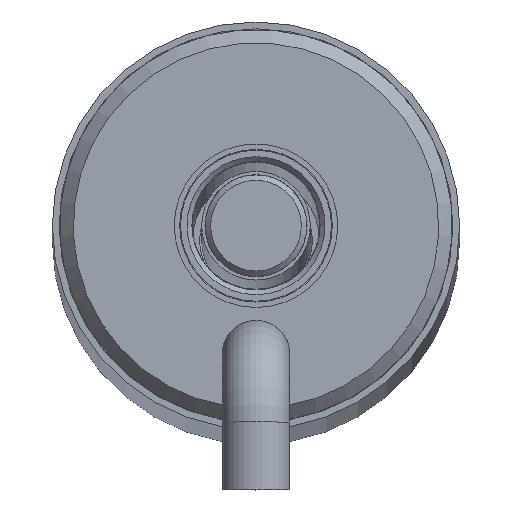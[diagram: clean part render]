
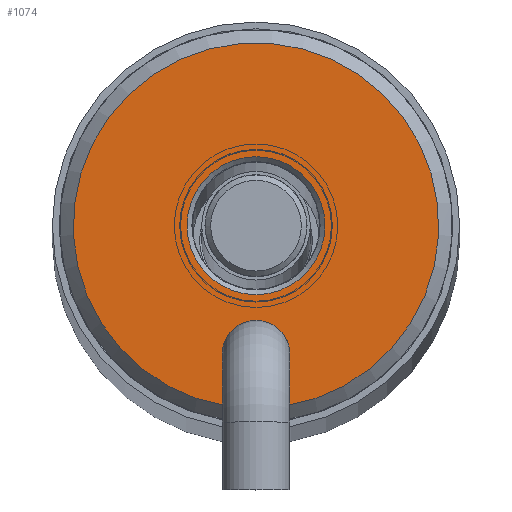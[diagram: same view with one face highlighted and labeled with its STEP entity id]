
A CAD part, top view. The second image highlights one B-rep face of the part: STEP entity #1074.
In plain terms, the highlighted planar face has unit normal (0, 0, 1).
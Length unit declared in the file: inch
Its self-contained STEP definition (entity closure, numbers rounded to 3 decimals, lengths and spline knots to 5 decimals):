
#78=FACE_BOUND('',#214,.T.);
#116=PLANE('',#1254);
#145=FACE_OUTER_BOUND('',#213,.T.);
#213=EDGE_LOOP('',(#719,#720,#721,#722,#723));
#214=EDGE_LOOP('',(#724));
#294=LINE('',#1700,#344);
#297=LINE('',#1710,#347);
#344=VECTOR('',#1401,0.3937);
#347=VECTOR('',#1406,0.3937);
#396=CIRCLE('',#1249,0.0625);
#398=CIRCLE('',#1251,0.0625);
#399=CIRCLE('',#1255,0.3365);
#400=CIRCLE('',#1256,0.127);
#448=VERTEX_POINT('',#1686);
#449=VERTEX_POINT('',#1688);
#452=VERTEX_POINT('',#1694);
#453=VERTEX_POINT('',#1699);
#456=VERTEX_POINT('',#1709);
#457=VERTEX_POINT('',#1712);
#550=EDGE_CURVE('',#449,#448,#396,.T.);
#554=EDGE_CURVE('',#448,#452,#398,.T.);
#555=EDGE_CURVE('',#453,#449,#294,.T.);
#559=EDGE_CURVE('',#452,#456,#297,.T.);
#560=EDGE_CURVE('',#453,#456,#399,.T.);
#561=EDGE_CURVE('',#457,#457,#400,.T.);
#719=ORIENTED_EDGE('',*,*,#550,.T.);
#720=ORIENTED_EDGE('',*,*,#554,.T.);
#721=ORIENTED_EDGE('',*,*,#559,.T.);
#722=ORIENTED_EDGE('',*,*,#560,.F.);
#723=ORIENTED_EDGE('',*,*,#555,.T.);
#724=ORIENTED_EDGE('',*,*,#561,.T.);
#1074=ADVANCED_FACE('',(#145,#78),#116,.T.);
#1249=AXIS2_PLACEMENT_3D('',#1689,#1389,#1390);
#1251=AXIS2_PLACEMENT_3D('',#1696,#1395,#1396);
#1254=AXIS2_PLACEMENT_3D('',#1708,#1404,#1405);
#1255=AXIS2_PLACEMENT_3D('',#1711,#1407,#1408);
#1256=AXIS2_PLACEMENT_3D('',#1713,#1409,#1410);
#1389=DIRECTION('center_axis',(0.,0.,
-1.));
#1390=DIRECTION('ref_axis',(1.,0.,0.));
#1395=DIRECTION('center_axis',(0.,0.,
-1.));
#1396=DIRECTION('ref_axis',(1.,0.,0.));
#1401=DIRECTION('',(0.,1.,0.));
#1404=DIRECTION('center_axis',(0.,0.,
1.));
#1405=DIRECTION('ref_axis',(1.,0.,0.));
#1406=DIRECTION('',(0.,-1.,0.));
#1407=DIRECTION('center_axis',(0.,0.,
-1.));
#1408=DIRECTION('ref_axis',(-1.,0.,0.));
#1409=DIRECTION('center_axis',(0.,0.,
-1.));
#1410=DIRECTION('ref_axis',(-1.,0.,0.));
#1686=CARTESIAN_POINT('',(-0.0625,-0.237,15.74));
#1688=CARTESIAN_POINT('',(-0.053,-0.27012,15.74));
#1689=CARTESIAN_POINT('Origin',(0.,-0.237,15.74));
#1694=CARTESIAN_POINT('',(0.053,-0.27012,15.74));
#1696=CARTESIAN_POINT('Origin',(0.,-0.237,15.74));
#1699=CARTESIAN_POINT('',(-0.053,-0.3323,15.74));
#1700=CARTESIAN_POINT('',(-0.053,0.04975,15.74));
#1708=CARTESIAN_POINT('Origin',(0.,0.3365,15.74));
#1709=CARTESIAN_POINT('',(0.053,-0.3323,15.74));
#1710=CARTESIAN_POINT('',(0.053,-0.01055,15.74));
#1711=CARTESIAN_POINT('Origin',(0.,0.,
15.74));
#1712=CARTESIAN_POINT('',(0.,-0.127,15.74));
#1713=CARTESIAN_POINT('Origin',(0.,0.,
15.74));
